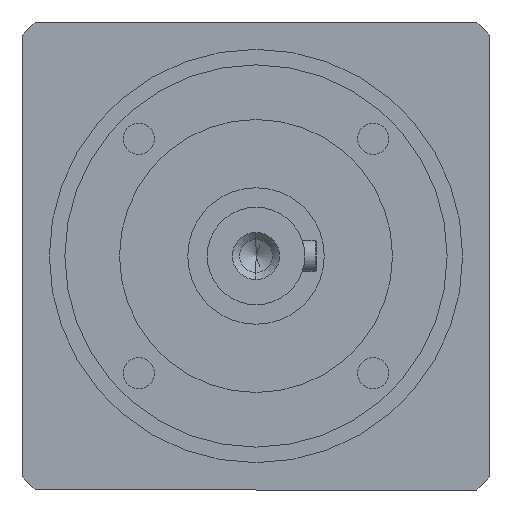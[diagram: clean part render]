
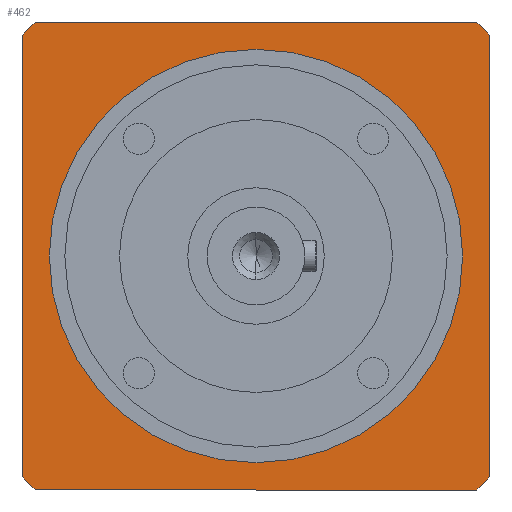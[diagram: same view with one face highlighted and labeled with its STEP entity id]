
A CAD part, left-side view. The second image highlights one B-rep face of the part: STEP entity #462.
In plain terms, the highlighted planar face has unit normal (-1, 0, 0).
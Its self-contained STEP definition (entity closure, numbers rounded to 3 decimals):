
#5 = VERTEX_POINT ( 'NONE', #2113 ) ;
#50 = EDGE_CURVE ( 'NONE', #5, #3132, #1249, .T. ) ;
#57 = VERTEX_POINT ( 'NONE', #3750 ) ;
#219 = DIRECTION ( 'NONE',  ( 0., 0., -1. ) ) ;
#239 = CARTESIAN_POINT ( 'NONE',  ( 0., 0., 0. ) ) ;
#322 = DIRECTION ( 'NONE',  ( 0., 0., 1. ) ) ;
#411 = ORIENTED_EDGE ( 'NONE', *, *, #460, .T. ) ;
#418 = ORIENTED_EDGE ( 'NONE', *, *, #674, .T. ) ;
#428 = AXIS2_PLACEMENT_3D ( 'NONE', #549, #1324, #4327 ) ;
#460 = EDGE_CURVE ( 'NONE', #1040, #57, #1184, .T. ) ;
#462 = ADVANCED_FACE ( 'NONE', ( #2927, #2522 ), #641, .T. ) ;
#503 = EDGE_LOOP ( 'NONE', ( #5157, #2023, #418, #1401, #1962, #3971, #5130, #411 ) ) ;
#519 = VECTOR ( 'NONE', #3784, 1000. ) ;
#549 = CARTESIAN_POINT ( 'NONE',  ( 0., 0., 0. ) ) ;
#611 = DIRECTION ( 'NONE',  ( 1., 0., 0. ) ) ;
#641 = PLANE ( 'NONE',  #1657 ) ;
#674 = EDGE_CURVE ( 'NONE', #1284, #5, #3887, .T. ) ;
#692 = LINE ( 'NONE', #2775, #5070 ) ;
#857 = VERTEX_POINT ( 'NONE', #2776 ) ;
#877 = EDGE_CURVE ( 'NONE', #57, #857, #5229, .T. ) ;
#910 = CARTESIAN_POINT ( 'NONE',  ( 0., 0., -45. ) ) ;
#1008 = CARTESIAN_POINT ( 'NONE',  ( 0., -60., -56.624 ) ) ;
#1040 = VERTEX_POINT ( 'NONE', #3416 ) ;
#1184 = CIRCLE ( 'NONE', #3161, 82.5 ) ;
#1249 = CIRCLE ( 'NONE', #4552, 82.5 ) ;
#1284 = VERTEX_POINT ( 'NONE', #1008 ) ;
#1324 = DIRECTION ( 'NONE',  ( 1., 0., 0. ) ) ;
#1325 = EDGE_CURVE ( 'NONE', #3903, #2237, #2902, .T. ) ;
#1347 = CARTESIAN_POINT ( 'NONE',  ( 0., -60., 0. ) ) ;
#1374 = CARTESIAN_POINT ( 'NONE',  ( 0., 0., 0. ) ) ;
#1401 = ORIENTED_EDGE ( 'NONE', *, *, #50, .T. ) ;
#1457 = DIRECTION ( 'NONE',  ( -1., 0., 0. ) ) ;
#1468 = CARTESIAN_POINT ( 'NONE',  ( 0., 0., 0. ) ) ;
#1552 = DIRECTION ( 'NONE',  ( -1., 0., 0. ) ) ;
#1613 = CARTESIAN_POINT ( 'NONE',  ( 0., 56.624, 60. ) ) ;
#1657 = AXIS2_PLACEMENT_3D ( 'NONE', #3224, #4066, #4508 ) ;
#1835 = VERTEX_POINT ( 'NONE', #910 ) ;
#1962 = ORIENTED_EDGE ( 'NONE', *, *, #4002, .T. ) ;
#2009 = LINE ( 'NONE', #5336, #2486 ) ;
#2023 = ORIENTED_EDGE ( 'NONE', *, *, #4115, .T. ) ;
#2113 = CARTESIAN_POINT ( 'NONE',  ( 0., -60., 56.624 ) ) ;
#2237 = VERTEX_POINT ( 'NONE', #3841 ) ;
#2269 = AXIS2_PLACEMENT_3D ( 'NONE', #4127, #4938, #322 ) ;
#2337 = DIRECTION ( 'NONE',  ( 0., 1., 0. ) ) ;
#2384 = DIRECTION ( 'NONE',  ( 0., 0., 1. ) ) ;
#2467 = EDGE_CURVE ( 'NONE', #2237, #1040, #2009, .T. ) ;
#2486 = VECTOR ( 'NONE', #219, 1000. ) ;
#2505 = VECTOR ( 'NONE', #3627, 1000. ) ;
#2522 = FACE_OUTER_BOUND ( 'NONE', #503, .T. ) ;
#2524 = DIRECTION ( 'NONE',  ( 0., 0., 1. ) ) ;
#2775 = CARTESIAN_POINT ( 'NONE',  ( 0., 0., 60. ) ) ;
#2776 = CARTESIAN_POINT ( 'NONE',  ( 0., -56.624, -60. ) ) ;
#2902 = CIRCLE ( 'NONE', #2269, 82.5 ) ;
#2927 = FACE_BOUND ( 'NONE', #3774, .T. ) ;
#2971 = EDGE_CURVE ( 'NONE', #5095, #1835, #3945, .T. ) ;
#3008 = AXIS2_PLACEMENT_3D ( 'NONE', #1374, #611, #4871 ) ;
#3069 = ORIENTED_EDGE ( 'NONE', *, *, #3383, .T. ) ;
#3132 = VERTEX_POINT ( 'NONE', #3979 ) ;
#3161 = AXIS2_PLACEMENT_3D ( 'NONE', #239, #1457, #2384 ) ;
#3224 = CARTESIAN_POINT ( 'NONE',  ( 0., 0., 0. ) ) ;
#3312 = CARTESIAN_POINT ( 'NONE',  ( 0., 0., 0. ) ) ;
#3356 = CIRCLE ( 'NONE', #428, 45. ) ;
#3383 = EDGE_CURVE ( 'NONE', #1835, #5095, #3356, .T. ) ;
#3416 = CARTESIAN_POINT ( 'NONE',  ( 0., 60., -56.624 ) ) ;
#3453 = ORIENTED_EDGE ( 'NONE', *, *, #2971, .T. ) ;
#3627 = DIRECTION ( 'NONE',  ( 0., -1., 0. ) ) ;
#3750 = CARTESIAN_POINT ( 'NONE',  ( 0., 56.624, -60. ) ) ;
#3774 = EDGE_LOOP ( 'NONE', ( #3453, #3069 ) ) ;
#3778 = CARTESIAN_POINT ( 'NONE',  ( 0., 0., 45. ) ) ;
#3784 = DIRECTION ( 'NONE',  ( 0., 0., 1. ) ) ;
#3841 = CARTESIAN_POINT ( 'NONE',  ( 0., 60., 56.624 ) ) ;
#3887 = LINE ( 'NONE', #1347, #519 ) ;
#3903 = VERTEX_POINT ( 'NONE', #1613 ) ;
#3945 = CIRCLE ( 'NONE', #3008, 45. ) ;
#3971 = ORIENTED_EDGE ( 'NONE', *, *, #1325, .T. ) ;
#3979 = CARTESIAN_POINT ( 'NONE',  ( 0., -56.624, 60. ) ) ;
#4002 = EDGE_CURVE ( 'NONE', #3132, #3903, #692, .T. ) ;
#4041 = CARTESIAN_POINT ( 'NONE',  ( 0., 0., -60. ) ) ;
#4066 = DIRECTION ( 'NONE',  ( -1., 0., 0. ) ) ;
#4115 = EDGE_CURVE ( 'NONE', #857, #1284, #4679, .T. ) ;
#4127 = CARTESIAN_POINT ( 'NONE',  ( 0., 0., 0. ) ) ;
#4153 = AXIS2_PLACEMENT_3D ( 'NONE', #1468, #1552, #5393 ) ;
#4240 = DIRECTION ( 'NONE',  ( -1., 0., 0. ) ) ;
#4327 = DIRECTION ( 'NONE',  ( 0., 0., 1. ) ) ;
#4508 = DIRECTION ( 'NONE',  ( 0., 0., 1. ) ) ;
#4552 = AXIS2_PLACEMENT_3D ( 'NONE', #3312, #4240, #2524 ) ;
#4679 = CIRCLE ( 'NONE', #4153, 82.5 ) ;
#4871 = DIRECTION ( 'NONE',  ( 0., 0., 1. ) ) ;
#4938 = DIRECTION ( 'NONE',  ( -1., 0., 0. ) ) ;
#5070 = VECTOR ( 'NONE', #2337, 1000. ) ;
#5095 = VERTEX_POINT ( 'NONE', #3778 ) ;
#5130 = ORIENTED_EDGE ( 'NONE', *, *, #2467, .T. ) ;
#5157 = ORIENTED_EDGE ( 'NONE', *, *, #877, .T. ) ;
#5229 = LINE ( 'NONE', #4041, #2505 ) ;
#5336 = CARTESIAN_POINT ( 'NONE',  ( 0., 60., 0. ) ) ;
#5393 = DIRECTION ( 'NONE',  ( 0., 0., 1. ) ) ;
